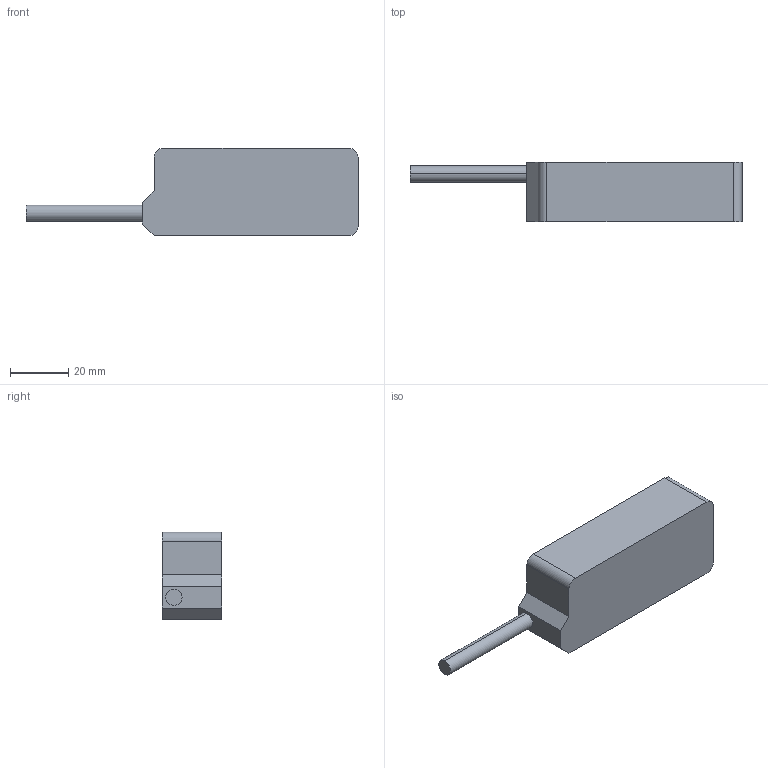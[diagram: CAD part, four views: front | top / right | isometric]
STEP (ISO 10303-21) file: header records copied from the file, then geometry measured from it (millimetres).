
FILE_DESCRIPTION (( 'STEP AP203' ), '1' );
FILE_NAME ('DPN30C2.STEP', '2017-12-15T06:44:54', ( 'Windows 蚚誧' ), ( '' ), 'SwSTEP 2.0', 'SolidWorks 2016', '' );
FILE_SCHEMA (( 'CONFIG_CONTROL_DESIGN' ));
Length unit declared in the file: millimetre
Products named in the file (1): DPN30C2
Bounding box: 114 x 20.4 x 30 mm (x, y, z)
Volume: 44490.6 mm3; surface area: 9332.2 mm2
Topology: 1 solids, 1 shells, 47 faces, 116 edges, 64 vertices
Faces by surface type: cylinder 21, cone 16, plane 10
Entity records: 1349 total; most frequent: DIRECTION 238, CARTESIAN_POINT 212, ORIENTED_EDGE 200, EDGE_CURVE 100, AXIS2_PLACEMENT_3D 90, VERTEX_POINT 64, LINE 58, VECTOR 58
